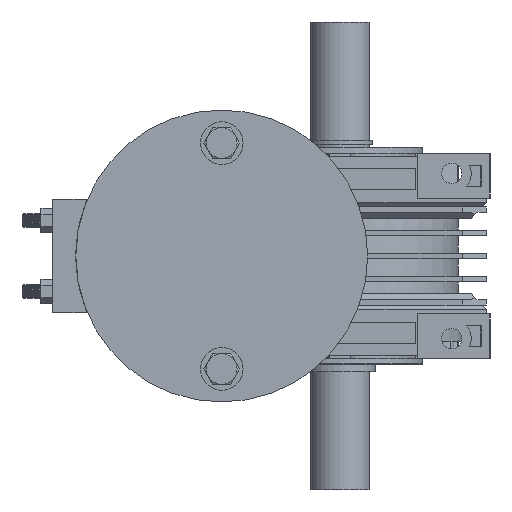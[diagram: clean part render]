
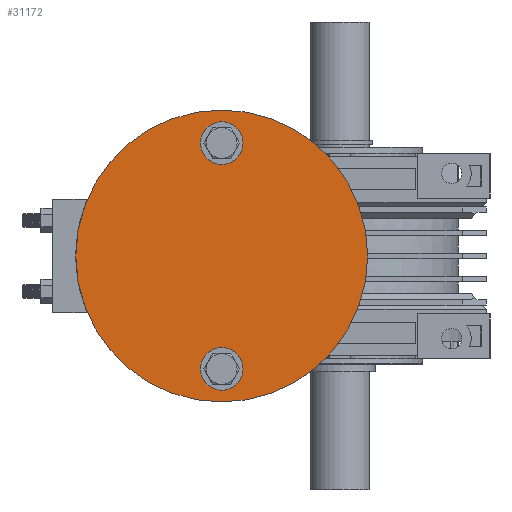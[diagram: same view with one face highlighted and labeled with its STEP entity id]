
A CAD part, left-side view. The second image highlights one B-rep face of the part: STEP entity #31172.
In plain terms, the highlighted planar face has unit normal (-1, 0, 0).
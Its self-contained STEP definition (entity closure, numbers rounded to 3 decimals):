
#1834 = DIRECTION ( 'NONE',  ( -1., 0., 0. ) ) ;
#2730 = ORIENTED_EDGE ( 'NONE', *, *, #12118, .F. ) ;
#3083 = CARTESIAN_POINT ( 'NONE',  ( 87.03, 186.008, 61.75 ) ) ;
#3212 = CIRCLE ( 'NONE', #33394, 9.005 ) ;
#3429 = ORIENTED_EDGE ( 'NONE', *, *, #38814, .F. ) ;
#5861 = CIRCLE ( 'NONE', #10447, 9.005 ) ;
#5883 = CIRCLE ( 'NONE', #32603, 61.75 ) ;
#8268 = CIRCLE ( 'NONE', #64359, 9.005 ) ;
#9876 = AXIS2_PLACEMENT_3D ( 'NONE', #14437, #50196, #19564 ) ;
#10342 = DIRECTION ( 'NONE',  ( -1., 0., 0. ) ) ;
#10447 = AXIS2_PLACEMENT_3D ( 'NONE', #40965, #10342, #49550 ) ;
#10991 = VERTEX_POINT ( 'NONE', #58373 ) ;
#12118 = EDGE_CURVE ( 'NONE', #22353, #59148, #25928, .T. ) ;
#12786 = DIRECTION ( 'NONE',  ( 1., 0., 0. ) ) ;
#13102 = DIRECTION ( 'NONE',  ( -1., 0., 0. ) ) ;
#14181 = VERTEX_POINT ( 'NONE', #32537 ) ;
#14437 = CARTESIAN_POINT ( 'NONE',  ( 87.03, 247.758, 0. ) ) ;
#15282 = CARTESIAN_POINT ( 'NONE',  ( 87.03, 186.008, 38.775 ) ) ;
#16307 = CARTESIAN_POINT ( 'NONE',  ( 87.03, 186.008, 47.78 ) ) ;
#17139 = AXIS2_PLACEMENT_3D ( 'NONE', #43418, #12786, #48520 ) ;
#19564 = DIRECTION ( 'NONE',  ( 0., 0., 1. ) ) ;
#21446 = DIRECTION ( 'NONE',  ( 0., 0., 1. ) ) ;
#22353 = VERTEX_POINT ( 'NONE', #25450 ) ;
#24824 = EDGE_CURVE ( 'NONE', #10991, #14181, #3212, .T. ) ;
#25450 = CARTESIAN_POINT ( 'NONE',  ( 87.03, 186.008, 56.785 ) ) ;
#25470 = DIRECTION ( 'NONE',  ( 1., 0., 0. ) ) ;
#25793 = ORIENTED_EDGE ( 'NONE', *, *, #24824, .F. ) ;
#25928 = CIRCLE ( 'NONE', #43046, 9.005 ) ;
#29564 = PLANE ( 'NONE',  #9876 ) ;
#29973 = FACE_BOUND ( 'NONE', #31035, .T. ) ;
#30615 = ORIENTED_EDGE ( 'NONE', *, *, #50481, .F. ) ;
#31035 = EDGE_LOOP ( 'NONE', ( #2730, #35890 ) ) ;
#31172 = ADVANCED_FACE ( 'NONE', ( #58855, #29973, #50068 ), #29564, .T. ) ;
#31945 = EDGE_CURVE ( 'NONE', #59148, #22353, #8268, .T. ) ;
#32416 = CARTESIAN_POINT ( 'NONE',  ( 87.03, 186.008, -47.78 ) ) ;
#32537 = CARTESIAN_POINT ( 'NONE',  ( 87.03, 186.008, -56.785 ) ) ;
#32603 = AXIS2_PLACEMENT_3D ( 'NONE', #56119, #25470, #61294 ) ;
#32645 = EDGE_LOOP ( 'NONE', ( #30615, #25793 ) ) ;
#33394 = AXIS2_PLACEMENT_3D ( 'NONE', #32416, #1834, #37605 ) ;
#35890 = ORIENTED_EDGE ( 'NONE', *, *, #31945, .F. ) ;
#36417 = ORIENTED_EDGE ( 'NONE', *, *, #43491, .F. ) ;
#37605 = DIRECTION ( 'NONE',  ( 0., 0., -1. ) ) ;
#38814 = EDGE_CURVE ( 'NONE', #45127, #47951, #5883, .T. ) ;
#39904 = EDGE_LOOP ( 'NONE', ( #36417, #3429 ) ) ;
#40965 = CARTESIAN_POINT ( 'NONE',  ( 87.03, 186.008, -47.78 ) ) ;
#43046 = AXIS2_PLACEMENT_3D ( 'NONE', #43742, #13102, #48851 ) ;
#43418 = CARTESIAN_POINT ( 'NONE',  ( 87.03, 186.008, 0. ) ) ;
#43491 = EDGE_CURVE ( 'NONE', #47951, #45127, #47706, .T. ) ;
#43578 = CARTESIAN_POINT ( 'NONE',  ( 87.03, 186.008, -61.75 ) ) ;
#43742 = CARTESIAN_POINT ( 'NONE',  ( 87.03, 186.008, 47.78 ) ) ;
#45127 = VERTEX_POINT ( 'NONE', #3083 ) ;
#47706 = CIRCLE ( 'NONE', #17139, 61.75 ) ;
#47951 = VERTEX_POINT ( 'NONE', #43578 ) ;
#48520 = DIRECTION ( 'NONE',  ( 0., 0., -1. ) ) ;
#48851 = DIRECTION ( 'NONE',  ( 0., 0., 1. ) ) ;
#49550 = DIRECTION ( 'NONE',  ( 0., 0., -1. ) ) ;
#50068 = FACE_OUTER_BOUND ( 'NONE', #39904, .T. ) ;
#50196 = DIRECTION ( 'NONE',  ( -1., 0., 0. ) ) ;
#50481 = EDGE_CURVE ( 'NONE', #14181, #10991, #5861, .T. ) ;
#52074 = DIRECTION ( 'NONE',  ( -1., 0., 0. ) ) ;
#56119 = CARTESIAN_POINT ( 'NONE',  ( 87.03, 186.008, 0. ) ) ;
#58373 = CARTESIAN_POINT ( 'NONE',  ( 87.03, 186.008, -38.775 ) ) ;
#58855 = FACE_BOUND ( 'NONE', #32645, .T. ) ;
#59148 = VERTEX_POINT ( 'NONE', #15282 ) ;
#61294 = DIRECTION ( 'NONE',  ( 0., 0., -1. ) ) ;
#64359 = AXIS2_PLACEMENT_3D ( 'NONE', #16307, #52074, #21446 ) ;
